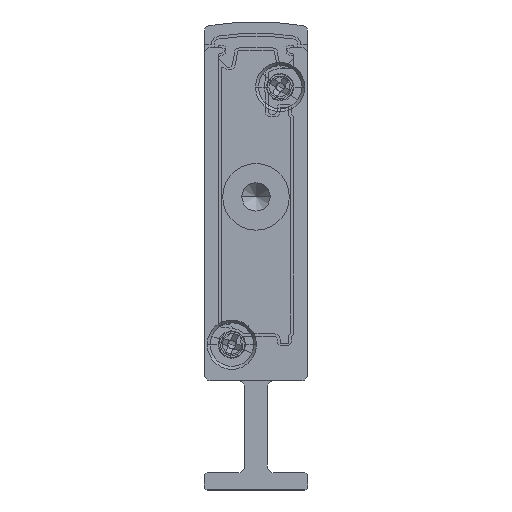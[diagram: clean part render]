
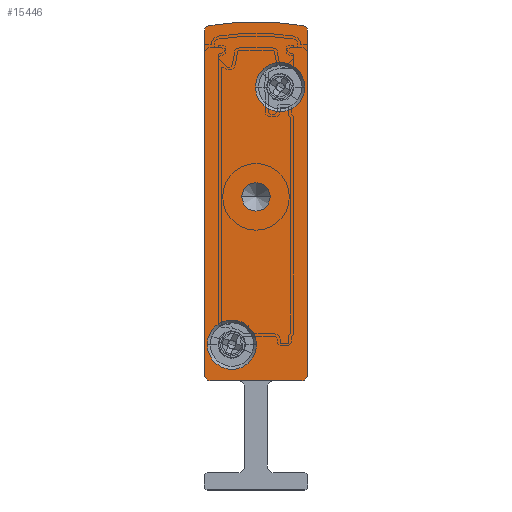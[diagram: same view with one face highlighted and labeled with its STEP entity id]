
A CAD part, front view. The second image highlights one B-rep face of the part: STEP entity #15446.
In plain terms, the highlighted planar face has unit normal (0, -1, 0).
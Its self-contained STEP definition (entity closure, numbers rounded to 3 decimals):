
#140 = CARTESIAN_POINT ( 'NONE',  ( 3.25, -2.5, 25.5 ) ) ;
#153 = CARTESIAN_POINT ( 'NONE',  ( 0.408, -2.5, 40.393 ) ) ;
#808 = CARTESIAN_POINT ( 'NONE',  ( 4.45, -2.5, 35.05 ) ) ;
#1641 = VERTEX_POINT ( 'NONE', #153 ) ;
#1731 = ORIENTED_EDGE ( 'NONE', *, *, #7637, .F. ) ;
#1780 = CIRCLE ( 'NONE', #15292, 1.25 ) ;
#2264 = AXIS2_PLACEMENT_3D ( 'NONE', #6956, #27574, #27789 ) ;
#2416 = EDGE_CURVE ( 'NONE', #6284, #10637, #13071, .T. ) ;
#2557 = DIRECTION ( 'NONE',  ( 0., 1., 0. ) ) ;
#2703 = CIRCLE ( 'NONE', #31930, 23.658 ) ;
#2800 = ORIENTED_EDGE ( 'NONE', *, *, #17771, .F. ) ;
#3245 = ORIENTED_EDGE ( 'NONE', *, *, #26679, .T. ) ;
#3652 = ORIENTED_EDGE ( 'NONE', *, *, #28622, .F. ) ;
#3870 = DIRECTION ( 'NONE',  ( 0., -1., 0. ) ) ;
#3905 = ORIENTED_EDGE ( 'NONE', *, *, #32543, .F. ) ;
#4147 = DIRECTION ( 'NONE',  ( -1., 0., 0. ) ) ;
#4361 = DIRECTION ( 'NONE',  ( 0., 1., 0. ) ) ;
#4537 = ORIENTED_EDGE ( 'NONE', *, *, #12809, .F. ) ;
#4710 = DIRECTION ( 'NONE',  ( 1., 0., 0. ) ) ;
#4924 = EDGE_LOOP ( 'NONE', ( #3652, #11796 ) ) ;
#5032 = CARTESIAN_POINT ( 'NONE',  ( 2.4, -2.5, 12.65 ) ) ;
#6050 = DIRECTION ( 'NONE',  ( 0., 1., 0. ) ) ;
#6113 = EDGE_CURVE ( 'NONE', #27094, #10091, #21528, .T. ) ;
#6151 = EDGE_LOOP ( 'NONE', ( #4537, #24438 ) ) ;
#6284 = VERTEX_POINT ( 'NONE', #140 ) ;
#6820 = LINE ( 'NONE', #20029, #22898 ) ;
#6956 = CARTESIAN_POINT ( 'NONE',  ( 6.6, -2.5, 35.05 ) ) ;
#7396 = CARTESIAN_POINT ( 'NONE',  ( 4.5, -2.5, 17.092 ) ) ;
#7584 = AXIS2_PLACEMENT_3D ( 'NONE', #15413, #17753, #22931 ) ;
#7637 = EDGE_CURVE ( 'NONE', #10091, #1641, #27839, .T. ) ;
#7723 = DIRECTION ( 'NONE',  ( 0., -1., 0. ) ) ;
#7845 = VECTOR ( 'NONE', #32613, 1000. ) ;
#8357 = FACE_BOUND ( 'NONE', #6151, .T. ) ;
#9037 = EDGE_LOOP ( 'NONE', ( #19677, #3245 ) ) ;
#9309 = VERTEX_POINT ( 'NONE', #18293 ) ;
#9912 = CARTESIAN_POINT ( 'NONE',  ( 0.5, -2.5, 9.5 ) ) ;
#9957 = ORIENTED_EDGE ( 'NONE', *, *, #27586, .F. ) ;
#9996 = DIRECTION ( 'NONE',  ( -1., 0., 0. ) ) ;
#10091 = VERTEX_POINT ( 'NONE', #28066 ) ;
#10226 = EDGE_LOOP ( 'NONE', ( #1731, #10944, #18027, #2800, #9957, #32255, #3905, #13736 ) ) ;
#10237 = DIRECTION ( 'NONE',  ( 0., 1., 0. ) ) ;
#10569 = CARTESIAN_POINT ( 'NONE',  ( 5.75, -2.5, 25.5 ) ) ;
#10637 = VERTEX_POINT ( 'NONE', #10569 ) ;
#10686 = AXIS2_PLACEMENT_3D ( 'NONE', #17938, #7723, #18034 ) ;
#10793 = DIRECTION ( 'NONE',  ( 0., 1., 0. ) ) ;
#10944 = ORIENTED_EDGE ( 'NONE', *, *, #6113, .F. ) ;
#11175 = VERTEX_POINT ( 'NONE', #19049 ) ;
#11454 = AXIS2_PLACEMENT_3D ( 'NONE', #13059, #10793, #23620 ) ;
#11796 = ORIENTED_EDGE ( 'NONE', *, *, #15382, .F. ) ;
#12223 = DIRECTION ( 'NONE',  ( -1., 0., 0. ) ) ;
#12226 = CIRCLE ( 'NONE', #11454, 0.5 ) ;
#12358 = DIRECTION ( 'NONE',  ( 0., -1., 0. ) ) ;
#12577 = EDGE_CURVE ( 'NONE', #19212, #17124, #6820, .T. ) ;
#12699 = CARTESIAN_POINT ( 'NONE',  ( 9., -2.5, 10. ) ) ;
#12715 = DIRECTION ( 'NONE',  ( 0., 1., 0. ) ) ;
#12718 = CIRCLE ( 'NONE', #20198, 0.5 ) ;
#12809 = EDGE_CURVE ( 'NONE', #11175, #19123, #14003, .T. ) ;
#13059 = CARTESIAN_POINT ( 'NONE',  ( 8.5, -2.5, 39.902 ) ) ;
#13071 = CIRCLE ( 'NONE', #7584, 1.25 ) ;
#13124 = CARTESIAN_POINT ( 'NONE',  ( 0.5, -2.5, 39.902 ) ) ;
#13214 = CIRCLE ( 'NONE', #10686, 2.15 ) ;
#13417 = CARTESIAN_POINT ( 'NONE',  ( 8.75, -2.5, 35.05 ) ) ;
#13736 = ORIENTED_EDGE ( 'NONE', *, *, #18143, .F. ) ;
#14003 = CIRCLE ( 'NONE', #22413, 2.15 ) ;
#15292 = AXIS2_PLACEMENT_3D ( 'NONE', #29880, #10237, #12223 ) ;
#15355 = DIRECTION ( 'NONE',  ( -1., 0., 0. ) ) ;
#15382 = EDGE_CURVE ( 'NONE', #28434, #29136, #13214, .T. ) ;
#15413 = CARTESIAN_POINT ( 'NONE',  ( 4.5, -2.5, 25.5 ) ) ;
#15446 = ADVANCED_FACE ( 'NONE', ( #26930, #8357, #28141, #32523 ), #20658, .F. ) ;
#15674 = DIRECTION ( 'NONE',  ( -1., 0., 0. ) ) ;
#15937 = EDGE_CURVE ( 'NONE', #26729, #27094, #12718, .T. ) ;
#16179 = AXIS2_PLACEMENT_3D ( 'NONE', #19744, #4361, #4147 ) ;
#16301 = EDGE_CURVE ( 'NONE', #19123, #11175, #31988, .T. ) ;
#17124 = VERTEX_POINT ( 'NONE', #12699 ) ;
#17207 = CARTESIAN_POINT ( 'NONE',  ( 0., -2.5, 10. ) ) ;
#17753 = DIRECTION ( 'NONE',  ( 0., 1., 0. ) ) ;
#17771 = EDGE_CURVE ( 'NONE', #9309, #26729, #18816, .T. ) ;
#17938 = CARTESIAN_POINT ( 'NONE',  ( 6.6, -2.5, 35.05 ) ) ;
#18027 = ORIENTED_EDGE ( 'NONE', *, *, #15937, .F. ) ;
#18034 = DIRECTION ( 'NONE',  ( 1., 0., 0. ) ) ;
#18143 = EDGE_CURVE ( 'NONE', #1641, #24994, #2703, .T. ) ;
#18293 = CARTESIAN_POINT ( 'NONE',  ( 8.5, -2.5, 9.5 ) ) ;
#18327 = CARTESIAN_POINT ( 'NONE',  ( 0.5, -2.5, 9.5 ) ) ;
#18816 = LINE ( 'NONE', #18327, #29771 ) ;
#19027 = CARTESIAN_POINT ( 'NONE',  ( 2.4, -2.5, 12.65 ) ) ;
#19049 = CARTESIAN_POINT ( 'NONE',  ( 4.55, -2.5, 12.65 ) ) ;
#19123 = VERTEX_POINT ( 'NONE', #22134 ) ;
#19212 = VERTEX_POINT ( 'NONE', #32838 ) ;
#19677 = ORIENTED_EDGE ( 'NONE', *, *, #2416, .T. ) ;
#19744 = CARTESIAN_POINT ( 'NONE',  ( 8.5, -2.5, 10. ) ) ;
#20029 = CARTESIAN_POINT ( 'NONE',  ( 9., -2.5, 39.902 ) ) ;
#20198 = AXIS2_PLACEMENT_3D ( 'NONE', #23828, #6050, #31601 ) ;
#20658 = PLANE ( 'NONE',  #30357 ) ;
#21528 = LINE ( 'NONE', #30091, #7845 ) ;
#21887 = AXIS2_PLACEMENT_3D ( 'NONE', #30630, #12715, #9996 ) ;
#22134 = CARTESIAN_POINT ( 'NONE',  ( 0.25, -2.5, 12.65 ) ) ;
#22369 = CIRCLE ( 'NONE', #2264, 2.15 ) ;
#22413 = AXIS2_PLACEMENT_3D ( 'NONE', #19027, #3870, #26835 ) ;
#22898 = VECTOR ( 'NONE', #30335, 1000. ) ;
#22931 = DIRECTION ( 'NONE',  ( -1., 0., 0. ) ) ;
#23328 = DIRECTION ( 'NONE',  ( 0., 1., 0. ) ) ;
#23620 = DIRECTION ( 'NONE',  ( -1., 0., 0. ) ) ;
#23828 = CARTESIAN_POINT ( 'NONE',  ( 0.5, -2.5, 10. ) ) ;
#24438 = ORIENTED_EDGE ( 'NONE', *, *, #16301, .F. ) ;
#24994 = VERTEX_POINT ( 'NONE', #26750 ) ;
#25193 = AXIS2_PLACEMENT_3D ( 'NONE', #5032, #12358, #4710 ) ;
#25851 = DIRECTION ( 'NONE',  ( -1., 0., 0. ) ) ;
#26679 = EDGE_CURVE ( 'NONE', #10637, #6284, #1780, .T. ) ;
#26729 = VERTEX_POINT ( 'NONE', #9912 ) ;
#26750 = CARTESIAN_POINT ( 'NONE',  ( 8.592, -2.5, 40.393 ) ) ;
#26835 = DIRECTION ( 'NONE',  ( 1., 0., 0. ) ) ;
#26930 = FACE_BOUND ( 'NONE', #4924, .T. ) ;
#27094 = VERTEX_POINT ( 'NONE', #17207 ) ;
#27372 = CIRCLE ( 'NONE', #16179, 0.5 ) ;
#27574 = DIRECTION ( 'NONE',  ( 0., -1., 0. ) ) ;
#27586 = EDGE_CURVE ( 'NONE', #17124, #9309, #27372, .T. ) ;
#27789 = DIRECTION ( 'NONE',  ( 1., 0., 0. ) ) ;
#27839 = CIRCLE ( 'NONE', #21887, 0.5 ) ;
#28066 = CARTESIAN_POINT ( 'NONE',  ( 0., -2.5, 39.902 ) ) ;
#28141 = FACE_OUTER_BOUND ( 'NONE', #10226, .T. ) ;
#28434 = VERTEX_POINT ( 'NONE', #808 ) ;
#28622 = EDGE_CURVE ( 'NONE', #29136, #28434, #22369, .T. ) ;
#29136 = VERTEX_POINT ( 'NONE', #13417 ) ;
#29771 = VECTOR ( 'NONE', #15674, 1000. ) ;
#29880 = CARTESIAN_POINT ( 'NONE',  ( 4.5, -2.5, 25.5 ) ) ;
#30091 = CARTESIAN_POINT ( 'NONE',  ( 0., -2.5, 39.902 ) ) ;
#30335 = DIRECTION ( 'NONE',  ( 0., 0., -1. ) ) ;
#30357 = AXIS2_PLACEMENT_3D ( 'NONE', #13124, #23328, #25851 ) ;
#30630 = CARTESIAN_POINT ( 'NONE',  ( 0.5, -2.5, 39.902 ) ) ;
#31601 = DIRECTION ( 'NONE',  ( -1., 0., 0. ) ) ;
#31930 = AXIS2_PLACEMENT_3D ( 'NONE', #7396, #2557, #15355 ) ;
#31988 = CIRCLE ( 'NONE', #25193, 2.15 ) ;
#32255 = ORIENTED_EDGE ( 'NONE', *, *, #12577, .F. ) ;
#32523 = FACE_BOUND ( 'NONE', #9037, .T. ) ;
#32543 = EDGE_CURVE ( 'NONE', #24994, #19212, #12226, .T. ) ;
#32613 = DIRECTION ( 'NONE',  ( 0., 0., 1. ) ) ;
#32838 = CARTESIAN_POINT ( 'NONE',  ( 9., -2.5, 39.902 ) ) ;
